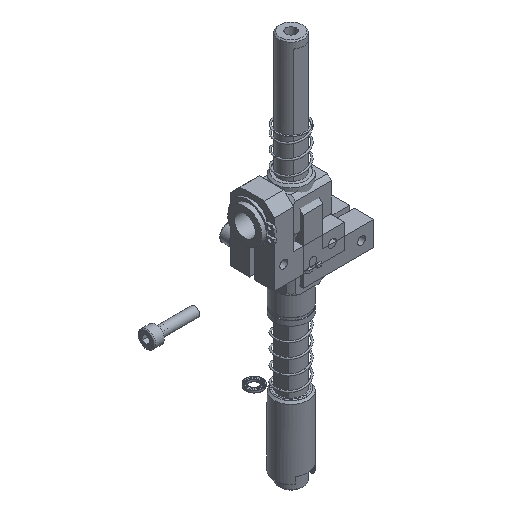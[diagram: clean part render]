
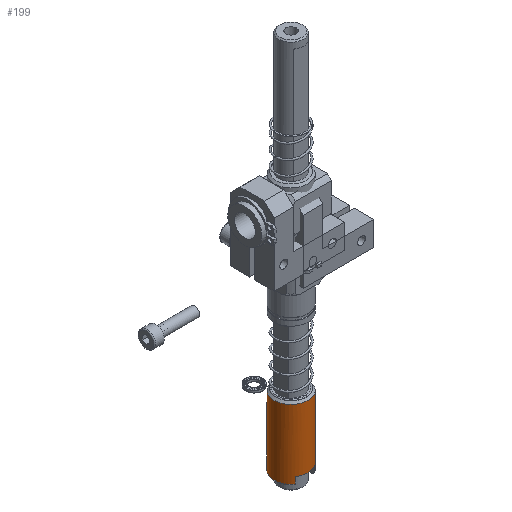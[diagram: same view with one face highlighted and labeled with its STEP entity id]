
A CAD part, isometric view. The second image highlights one B-rep face of the part: STEP entity #199.
In plain terms, the highlighted cylindrical face has radius 7 mm (diameter 14 mm), a full revolution.
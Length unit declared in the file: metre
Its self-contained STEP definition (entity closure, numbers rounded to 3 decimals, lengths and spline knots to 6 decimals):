
#199 = ADVANCED_FACE( '', ( #321, #322 ), #323, .T. );
#321 = FACE_OUTER_BOUND( '', #452, .T. );
#322 = FACE_OUTER_BOUND( '', #453, .T. );
#323 = CYLINDRICAL_SURFACE( '', #454, 0.007 );
#452 = EDGE_LOOP( '', ( #935, #936, #937, #938, #939, #940, #941, #942 ) );
#453 = EDGE_LOOP( '', ( #943 ) );
#454 = AXIS2_PLACEMENT_3D( '', #944, #945, #946 );
#935 = ORIENTED_EDGE( '', *, *, #1693, .F. );
#936 = ORIENTED_EDGE( '', *, *, #1680, .F. );
#937 = ORIENTED_EDGE( '', *, *, #1669, .F. );
#938 = ORIENTED_EDGE( '', *, *, #1661, .T. );
#939 = ORIENTED_EDGE( '', *, *, #1667, .F. );
#940 = ORIENTED_EDGE( '', *, *, #1652, .F. );
#941 = ORIENTED_EDGE( '', *, *, #1695, .F. );
#942 = ORIENTED_EDGE( '', *, *, #1676, .T. );
#943 = ORIENTED_EDGE( '', *, *, #1658, .T. );
#944 = CARTESIAN_POINT( '', ( 0., 0., 0.03 ) );
#945 = DIRECTION( '', ( 0., 0., 1. ) );
#946 = DIRECTION( '', ( -1., 0., 0. ) );
#1652 = EDGE_CURVE( '', #2403, #2404, #2405, .F. );
#1658 = EDGE_CURVE( '', #2414, #2414, #2415, .T. );
#1661 = EDGE_CURVE( '', #2420, #2417, #2421, .F. );
#1667 = EDGE_CURVE( '', #2404, #2417, #2430, .T. );
#1669 = EDGE_CURVE( '', #2420, #2432, #2433, .F. );
#1676 = EDGE_CURVE( '', #2444, #2441, #2445, .F. );
#1680 = EDGE_CURVE( '', #2432, #2450, #2451, .F. );
#1693 = EDGE_CURVE( '', #2450, #2441, #2467, .T. );
#1695 = EDGE_CURVE( '', #2444, #2403, #2469, .F. );
#2403 = VERTEX_POINT( '', #5026 );
#2404 = VERTEX_POINT( '', #5027 );
#2405 = CIRCLE( '', #5028, 0.007 );
#2414 = VERTEX_POINT( '', #5039 );
#2415 = CIRCLE( '', #5040, 0.007 );
#2417 = VERTEX_POINT( '', #5042 );
#2420 = VERTEX_POINT( '', #5048 );
#2421 = CIRCLE( '', #5049, 0.007 );
#2430 = LINE( '', #5073, #5074 );
#2432 = VERTEX_POINT( '', #5077 );
#2433 = LINE( '', #5078, #5079 );
#2441 = VERTEX_POINT( '', #5089 );
#2444 = VERTEX_POINT( '', #5095 );
#2445 = CIRCLE( '', #5096, 0.007 );
#2450 = VERTEX_POINT( '', #5104 );
#2451 = CIRCLE( '', #5105, 0.007 );
#2467 = LINE( '', #5135, #5136 );
#2469 = LINE( '', #5139, #5140 );
#5026 = CARTESIAN_POINT( '', ( -0.004, 0.005745, 0.0035 ) );
#5027 = CARTESIAN_POINT( '', ( 0.004, 0.005745, 0.0035 ) );
#5028 = AXIS2_PLACEMENT_3D( '', #5943, #5944, #5945 );
#5039 = CARTESIAN_POINT( '', ( -0.007, 0., 0.0292 ) );
#5040 = AXIS2_PLACEMENT_3D( '', #5954, #5955, #5956 );
#5042 = CARTESIAN_POINT( '', ( 0.004, 0.005745, 0.0008 ) );
#5048 = CARTESIAN_POINT( '', ( 0.004, -0.005745, 0.0008 ) );
#5049 = AXIS2_PLACEMENT_3D( '', #5957, #5958, #5959 );
#5073 = CARTESIAN_POINT( '', ( 0.004, 0.005745, 0.03 ) );
#5074 = VECTOR( '', #5964, 1. );
#5077 = CARTESIAN_POINT( '', ( 0.004, -0.005745, 0.0035 ) );
#5078 = CARTESIAN_POINT( '', ( 0.004, -0.005745, 0.03 ) );
#5079 = VECTOR( '', #5966, 1. );
#5089 = CARTESIAN_POINT( '', ( -0.004, -0.005745, 0.0008 ) );
#5095 = CARTESIAN_POINT( '', ( -0.004, 0.005745, 0.0008 ) );
#5096 = AXIS2_PLACEMENT_3D( '', #5972, #5973, #5974 );
#5104 = CARTESIAN_POINT( '', ( -0.004, -0.005745, 0.0035 ) );
#5105 = AXIS2_PLACEMENT_3D( '', #5978, #5979, #5980 );
#5135 = CARTESIAN_POINT( '', ( -0.004, -0.005745, 0.03 ) );
#5136 = VECTOR( '', #5993, 1. );
#5139 = CARTESIAN_POINT( '', ( -0.004, 0.005745, 0.03 ) );
#5140 = VECTOR( '', #5995, 1. );
#5943 = CARTESIAN_POINT( '', ( 0., 0., 0.0035 ) );
#5944 = DIRECTION( '', ( 0., 0., 1. ) );
#5945 = DIRECTION( '', ( 1., 0., 0. ) );
#5954 = CARTESIAN_POINT( '', ( 0., 0., 0.0292 ) );
#5955 = DIRECTION( '', ( 0., 0., -1. ) );
#5956 = DIRECTION( '', ( -1., 0., 0. ) );
#5957 = CARTESIAN_POINT( '', ( 0., 0., 0.0008 ) );
#5958 = DIRECTION( '', ( 0., 0., -1. ) );
#5959 = DIRECTION( '', ( -1., 0., 0. ) );
#5964 = DIRECTION( '', ( 0., 0., -1. ) );
#5966 = DIRECTION( '', ( 0., 0., -1. ) );
#5972 = CARTESIAN_POINT( '', ( 0., 0., 0.0008 ) );
#5973 = DIRECTION( '', ( 0., 0., -1. ) );
#5974 = DIRECTION( '', ( -1., 0., 0. ) );
#5978 = CARTESIAN_POINT( '', ( 0., 0., 0.0035 ) );
#5979 = DIRECTION( '', ( 0., 0., 1. ) );
#5980 = DIRECTION( '', ( 1., 0., 0. ) );
#5993 = DIRECTION( '', ( 0., 0., -1. ) );
#5995 = DIRECTION( '', ( 0., 0., -1. ) );
